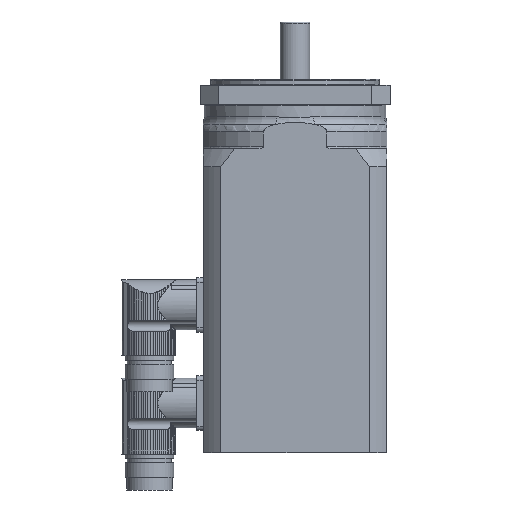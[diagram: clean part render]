
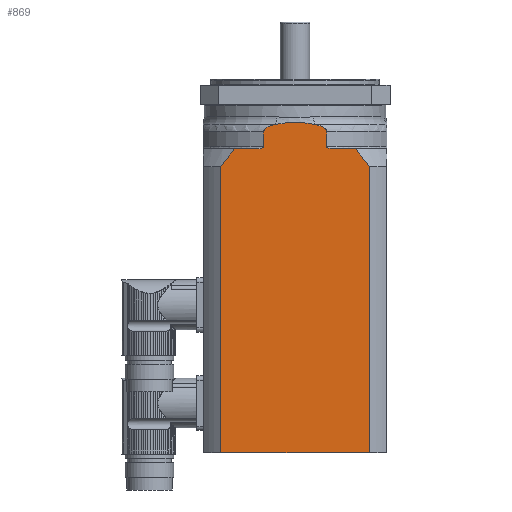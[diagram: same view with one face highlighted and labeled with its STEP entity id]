
A CAD part, front view. The second image highlights one B-rep face of the part: STEP entity #869.
In plain terms, the highlighted planar face has unit normal (0, -1, 0).
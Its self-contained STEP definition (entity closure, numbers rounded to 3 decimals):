
#156=PLANE('',#4437);
#421=LINE('',#6091,#633);
#448=LINE('',#6222,#660);
#450=LINE('',#6231,#662);
#451=LINE('',#6235,#663);
#458=LINE('',#6267,#670);
#465=LINE('',#6393,#677);
#467=LINE('',#6444,#679);
#633=VECTOR('',#4883,1.);
#660=VECTOR('',#4970,1.);
#662=VECTOR('',#4978,1.);
#663=VECTOR('',#4983,1.);
#670=VECTOR('',#5010,1.);
#677=VECTOR('',#5037,1.);
#679=VECTOR('',#5045,1.);
#869=ADVANCED_FACE('',(#1130),#156,.T.);
#1130=FACE_OUTER_BOUND('',#1366,.T.);
#1366=EDGE_LOOP('',(#2016,#2017,#2018,#2019,#2020,#2021,#2022,#2023,#2024,
#2025,#2026,#2027,#2028,#2029,#2030,#2031));
#2016=ORIENTED_EDGE('',*,*,#3621,.F.);
#2017=ORIENTED_EDGE('',*,*,#3671,.T.);
#2018=ORIENTED_EDGE('',*,*,#3560,.T.);
#2019=ORIENTED_EDGE('',*,*,#3672,.T.);
#2020=ORIENTED_EDGE('',*,*,#3673,.T.);
#2021=ORIENTED_EDGE('',*,*,#3674,.T.);
#2022=ORIENTED_EDGE('',*,*,#3572,.F.);
#2023=ORIENTED_EDGE('',*,*,#3675,.T.);
#2024=ORIENTED_EDGE('',*,*,#3667,.F.);
#2025=ORIENTED_EDGE('',*,*,#3676,.T.);
#2026=ORIENTED_EDGE('',*,*,#3627,.T.);
#2027=ORIENTED_EDGE('',*,*,#3677,.T.);
#2028=ORIENTED_EDGE('',*,*,#3625,.T.);
#2029=ORIENTED_EDGE('',*,*,#3678,.T.);
#2030=ORIENTED_EDGE('',*,*,#3641,.F.);
#2031=ORIENTED_EDGE('',*,*,#3679,.T.);
#3127=VERTEX_POINT('',#6062);
#3128=VERTEX_POINT('',#6063);
#3139=VERTEX_POINT('',#6092);
#3140=VERTEX_POINT('',#6093);
#3180=VERTEX_POINT('',#6221);
#3181=VERTEX_POINT('',#6223);
#3184=VERTEX_POINT('',#6230);
#3185=VERTEX_POINT('',#6232);
#3186=VERTEX_POINT('',#6236);
#3187=VERTEX_POINT('',#6237);
#3200=VERTEX_POINT('',#6266);
#3201=VERTEX_POINT('',#6268);
#3210=VERTEX_POINT('',#6394);
#3211=VERTEX_POINT('',#6395);
#3214=VERTEX_POINT('',#6416);
#3215=VERTEX_POINT('',#6421);
#3560=EDGE_CURVE('',#3127,#3128,#4187,.T.);
#3572=EDGE_CURVE('',#3139,#3140,#421,.T.);
#3621=EDGE_CURVE('',#3180,#3181,#448,.T.);
#3625=EDGE_CURVE('',#3185,#3184,#450,.T.);
#3627=EDGE_CURVE('',#3186,#3187,#451,.T.);
#3641=EDGE_CURVE('',#3200,#3201,#458,.T.);
#3667=EDGE_CURVE('',#3210,#3211,#465,.T.);
#3671=EDGE_CURVE('',#3180,#3127,#4207,.T.);
#3672=EDGE_CURVE('',#3128,#3214,#4208,.T.);
#3673=EDGE_CURVE('',#3214,#3215,#4209,.T.);
#3674=EDGE_CURVE('',#3215,#3140,#4210,.T.);
#3675=EDGE_CURVE('',#3139,#3211,#4211,.T.);
#3676=EDGE_CURVE('',#3210,#3186,#4212,.T.);
#3677=EDGE_CURVE('',#3187,#3185,#467,.T.);
#3678=EDGE_CURVE('',#3184,#3201,#4213,.T.);
#3679=EDGE_CURVE('',#3200,#3181,#4214,.T.);
#4187=B_SPLINE_CURVE_WITH_KNOTS('',3,(#6058,#6059,#6060,#6061),.UNSPECIFIED.,
.F.,.F.,(4,4),(0.,1.),.UNSPECIFIED.);
#4207=B_SPLINE_CURVE_WITH_KNOTS('',3,(#6402,#6403,#6404,#6405,#6406,#6407,
#6408,#6409),.UNSPECIFIED.,.F.,.F.,(4,2,2,4),(0.,0.25,0.5,1.),.UNSPECIFIED.);
#4208=B_SPLINE_CURVE_WITH_KNOTS('',3,(#6410,#6411,#6412,#6413,#6414,#6415),
.UNSPECIFIED.,.F.,.F.,(4,2,4),(0.,0.5,1.),.UNSPECIFIED.);
#4209=B_SPLINE_CURVE_WITH_KNOTS('',3,(#6417,#6418,#6419,#6420),.UNSPECIFIED.,
.F.,.F.,(4,4),(0.,1.),.UNSPECIFIED.);
#4210=B_SPLINE_CURVE_WITH_KNOTS('',3,(#6422,#6423,#6424,#6425,#6426,#6427,
#6428,#6429),.UNSPECIFIED.,.F.,.F.,(4,2,2,4),(0.,0.5,0.75,1.),.UNSPECIFIED.);
#4211=B_SPLINE_CURVE_WITH_KNOTS('',3,(#6430,#6431,#6432,#6433,#6434,#6435,
#6436,#6437,#6438,#6439),.UNSPECIFIED.,.F.,.F.,(4,2,2,2,4),(0.,0.125,0.25,
0.5,1.),.UNSPECIFIED.);
#4212=B_SPLINE_CURVE_WITH_KNOTS('',3,(#6440,#6441,#6442,#6443),.UNSPECIFIED.,
.F.,.F.,(4,4),(0.,1.),.UNSPECIFIED.);
#4213=B_SPLINE_CURVE_WITH_KNOTS('',3,(#6445,#6446,#6447,#6448),.UNSPECIFIED.,
.F.,.F.,(4,4),(0.,1.),.UNSPECIFIED.);
#4214=B_SPLINE_CURVE_WITH_KNOTS('',3,(#6449,#6450,#6451,#6452,#6453,#6454,
#6455,#6456,#6457,#6458),.UNSPECIFIED.,.F.,.F.,(4,2,2,2,4),(0.,0.5,0.75,
0.875,1.),.UNSPECIFIED.);
#4437=AXIS2_PLACEMENT_3D('',#6459,#5046,#5047);
#4883=DIRECTION('',(0.,0.,1.));
#4970=DIRECTION('',(0.,0.,-1.));
#4978=DIRECTION('',(0.,0.,1.));
#4983=DIRECTION('',(0.,0.,-1.));
#5010=DIRECTION('',(1.,0.,0.));
#5037=DIRECTION('',(1.,0.,0.));
#5045=DIRECTION('',(1.,0.,0.));
#5046=DIRECTION('',(0.,-1.,0.));
#5047=DIRECTION('',(1.,0.,0.));
#6058=CARTESIAN_POINT('',(9.548,-43.5,11.464));
#6059=CARTESIAN_POINT('',(9.436,-43.5,11.489));
#6060=CARTESIAN_POINT('',(9.323,-43.5,11.512));
#6061=CARTESIAN_POINT('',(9.211,-43.5,11.536));
#6062=CARTESIAN_POINT('',(9.548,-43.5,11.464));
#6063=CARTESIAN_POINT('',(9.211,-43.5,11.536));
#6091=CARTESIAN_POINT('',(-14.958,-43.5,0.));
#6092=CARTESIAN_POINT('',(-14.958,-43.5,1.));
#6093=CARTESIAN_POINT('',(-14.958,-43.5,7.929));
#6221=CARTESIAN_POINT('',(14.958,-43.5,7.929));
#6222=CARTESIAN_POINT('',(14.958,-43.5,0.));
#6223=CARTESIAN_POINT('',(14.958,-43.5,1.));
#6230=CARTESIAN_POINT('',(35.267,-43.5,-8.5));
#6231=CARTESIAN_POINT('',(35.267,-43.5,0.));
#6232=CARTESIAN_POINT('',(35.267,-43.5,-144.));
#6235=CARTESIAN_POINT('',(-35.267,-43.5,0.));
#6236=CARTESIAN_POINT('',(-35.267,-43.5,-8.5));
#6237=CARTESIAN_POINT('',(-35.267,-43.5,-144.));
#6266=CARTESIAN_POINT('',(17.797,-43.5,0.));
#6267=CARTESIAN_POINT('',(-43.5,-43.5,0.));
#6268=CARTESIAN_POINT('',(28.558,-43.5,0.));
#6393=CARTESIAN_POINT('',(-43.5,-43.5,0.));
#6394=CARTESIAN_POINT('',(-28.558,-43.5,0.));
#6395=CARTESIAN_POINT('',(-17.797,-43.5,0.));
#6402=CARTESIAN_POINT('',(14.958,-43.5,7.929));
#6403=CARTESIAN_POINT('',(14.958,-43.5,8.512));
#6404=CARTESIAN_POINT('',(14.631,-43.5,9.041));
#6405=CARTESIAN_POINT('',(13.812,-43.5,9.842));
#6406=CARTESIAN_POINT('',(13.315,-43.5,10.149));
#6407=CARTESIAN_POINT('',(11.782,-43.5,10.909));
#6408=CARTESIAN_POINT('',(10.67,-43.5,11.224));
#6409=CARTESIAN_POINT('',(9.548,-43.5,11.464));
#6410=CARTESIAN_POINT('',(9.211,-43.5,11.536));
#6411=CARTESIAN_POINT('',(6.182,-43.5,12.163));
#6412=CARTESIAN_POINT('',(3.071,-43.5,12.502));
#6413=CARTESIAN_POINT('',(-3.141,-43.5,12.497));
#6414=CARTESIAN_POINT('',(-6.197,-43.5,12.16));
#6415=CARTESIAN_POINT('',(-9.211,-43.5,11.536));
#6416=CARTESIAN_POINT('',(-9.211,-43.5,11.536));
#6417=CARTESIAN_POINT('',(-9.211,-43.5,11.536));
#6418=CARTESIAN_POINT('',(-9.323,-43.5,11.512));
#6419=CARTESIAN_POINT('',(-9.436,-43.5,11.489));
#6420=CARTESIAN_POINT('',(-9.548,-43.5,11.464));
#6421=CARTESIAN_POINT('',(-9.548,-43.5,11.464));
#6422=CARTESIAN_POINT('',(-9.548,-43.5,11.464));
#6423=CARTESIAN_POINT('',(-10.67,-43.5,11.224));
#6424=CARTESIAN_POINT('',(-11.777,-43.5,10.912));
#6425=CARTESIAN_POINT('',(-13.321,-43.5,10.146));
#6426=CARTESIAN_POINT('',(-13.816,-43.5,9.839));
#6427=CARTESIAN_POINT('',(-14.632,-43.5,9.038));
#6428=CARTESIAN_POINT('',(-14.958,-43.5,8.511));
#6429=CARTESIAN_POINT('',(-14.958,-43.5,7.929));
#6430=CARTESIAN_POINT('',(-14.958,-43.5,1.));
#6431=CARTESIAN_POINT('',(-14.958,-43.5,0.864));
#6432=CARTESIAN_POINT('',(-15.045,-43.5,0.746));
#6433=CARTESIAN_POINT('',(-15.243,-43.5,0.567));
#6434=CARTESIAN_POINT('',(-15.36,-43.5,0.498));
#6435=CARTESIAN_POINT('',(-15.716,-43.5,0.322));
#6436=CARTESIAN_POINT('',(-15.971,-43.5,0.242));
#6437=CARTESIAN_POINT('',(-16.743,-43.5,0.054));
#6438=CARTESIAN_POINT('',(-17.266,-43.5,0.));
#6439=CARTESIAN_POINT('',(-17.797,-43.5,0.));
#6440=CARTESIAN_POINT('',(-28.558,-43.5,0.));
#6441=CARTESIAN_POINT('',(-30.896,-43.5,-2.753));
#6442=CARTESIAN_POINT('',(-33.118,-43.5,-5.598));
#6443=CARTESIAN_POINT('',(-35.267,-43.5,-8.5));
#6444=CARTESIAN_POINT('',(-43.5,-43.5,-144.));
#6445=CARTESIAN_POINT('',(35.267,-43.5,-8.5));
#6446=CARTESIAN_POINT('',(33.118,-43.5,-5.598));
#6447=CARTESIAN_POINT('',(30.896,-43.5,-2.753));
#6448=CARTESIAN_POINT('',(28.558,-43.5,0.));
#6449=CARTESIAN_POINT('',(17.797,-43.5,0.));
#6450=CARTESIAN_POINT('',(17.266,-43.5,0.));
#6451=CARTESIAN_POINT('',(16.743,-43.5,0.054));
#6452=CARTESIAN_POINT('',(15.975,-43.5,0.241));
#6453=CARTESIAN_POINT('',(15.718,-43.5,0.321));
#6454=CARTESIAN_POINT('',(15.359,-43.5,0.499));
#6455=CARTESIAN_POINT('',(15.244,-43.5,0.567));
#6456=CARTESIAN_POINT('',(15.044,-43.5,0.746));
#6457=CARTESIAN_POINT('',(14.958,-43.5,0.864));
#6458=CARTESIAN_POINT('',(14.958,-43.5,1.));
#6459=CARTESIAN_POINT('',(-43.5,-43.5,0.));
